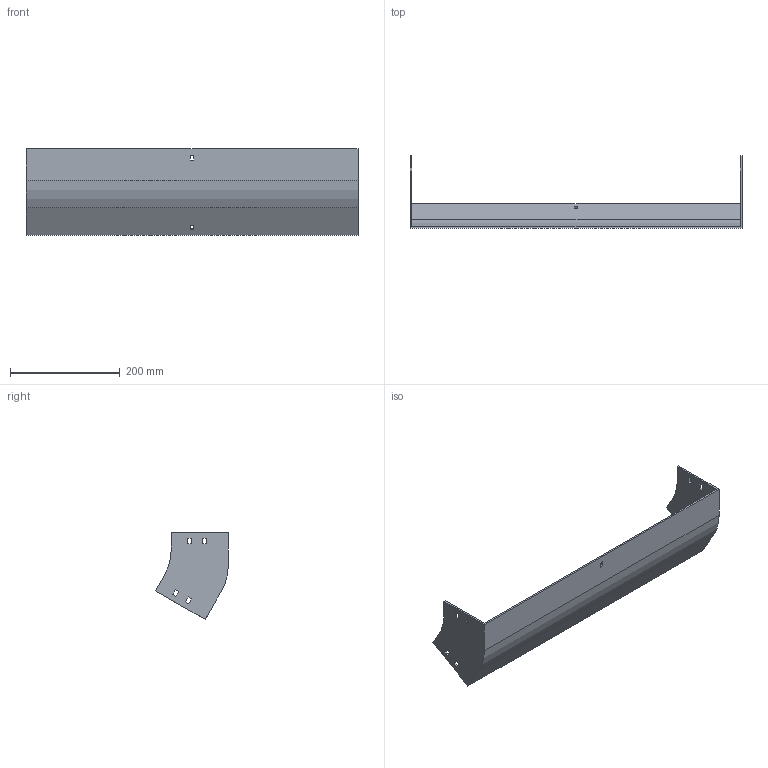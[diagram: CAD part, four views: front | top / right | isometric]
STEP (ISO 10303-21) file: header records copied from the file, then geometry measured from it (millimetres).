
FILE_DESCRIPTION (( 'STEP AP214' ), '1' );
FILE_NAME ('32F1D600.step', '2025-02-21T12:59:41', ( '' ), ( '' ), 'SwSTEP 2.0', 'SolidWorks 2023', '' );
FILE_SCHEMA (( 'AUTOMOTIVE_DESIGN' ));
Length unit declared in the file: millimetre
Products named in the file (1): 32F1D600
Bounding box: 604 x 132.4 x 157.98 mm (x, y, z)
Volume: 449927.2 mm3; surface area: 264698.2 mm2
Topology: 1 solids, 1 shells, 58 faces, 168 edges, 112 vertices
Faces by surface type: plane 54, cylinder 4
Entity records: 1943 total; most frequent: CARTESIAN_POINT 339, ORIENTED_EDGE 336, DIRECTION 294, EDGE_CURVE 168, VECTOR 160, LINE 160, VERTEX_POINT 112, EDGE_LOOP 78
